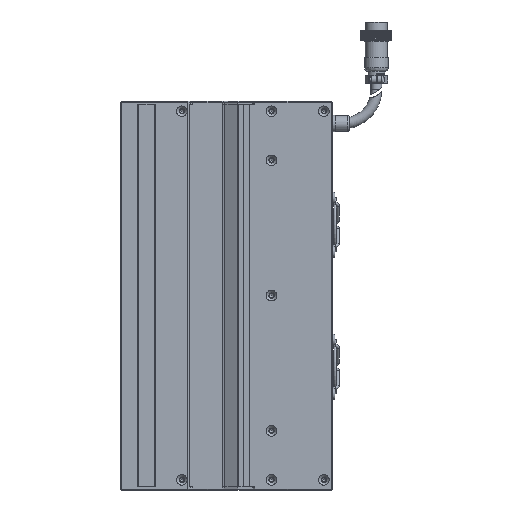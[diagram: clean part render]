
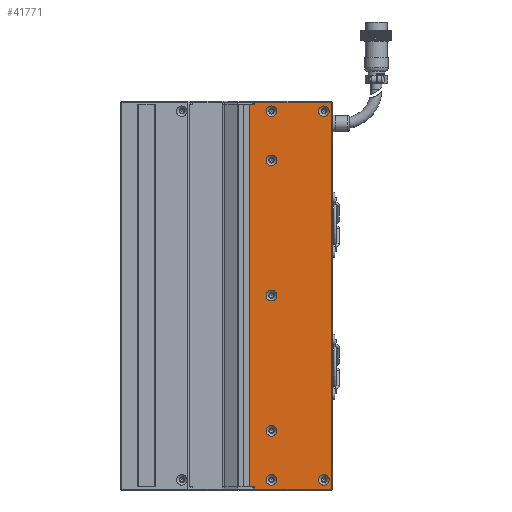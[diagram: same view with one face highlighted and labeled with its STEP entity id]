
A CAD part, left-side view. The second image highlights one B-rep face of the part: STEP entity #41771.
In plain terms, the highlighted planar face has unit normal (-1, 0, 0).
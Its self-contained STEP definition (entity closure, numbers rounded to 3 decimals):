
#1291 = DIRECTION ( 'NONE',  ( 0., 0., 1. ) ) ;
#2039 = EDGE_LOOP ( 'NONE', ( #43079 ) ) ;
#2148 = DIRECTION ( 'NONE',  ( -1., 0., 0. ) ) ;
#3216 = VERTEX_POINT ( 'NONE', #4691 ) ;
#4691 = CARTESIAN_POINT ( 'NONE',  ( -24.998, -72., -114.5 ) ) ;
#4860 = EDGE_LOOP ( 'NONE', ( #55312 ) ) ;
#4933 = ORIENTED_EDGE ( 'NONE', *, *, #31613, .F. ) ;
#5655 = FACE_BOUND ( 'NONE', #2039, .T. ) ;
#6039 = CIRCLE ( 'NONE', #95228, 3.15 ) ;
#7592 = EDGE_CURVE ( 'NONE', #49629, #49629, #106882, .T. ) ;
#8708 = VECTOR ( 'NONE', #30792, 1000. ) ;
#10331 = FACE_OUTER_BOUND ( 'NONE', #73410, .T. ) ;
#11016 = VERTEX_POINT ( 'NONE', #67903 ) ;
#11701 = CARTESIAN_POINT ( 'NONE',  ( -24.998, -72.5, 114.5 ) ) ;
#12600 = CARTESIAN_POINT ( 'NONE',  ( -24.998, -72.5, -114.5 ) ) ;
#15065 = CARTESIAN_POINT ( 'NONE',  ( -24.998, -26.5, -113. ) ) ;
#16270 = AXIS2_PLACEMENT_3D ( 'NONE', #30791, #41567, #61024 ) ;
#16841 = VERTEX_POINT ( 'NONE', #81076 ) ;
#18858 = DIRECTION ( 'NONE',  ( 0., 0., 1. ) ) ;
#18870 = CARTESIAN_POINT ( 'NONE',  ( -24.998, -67.5, 112.15 ) ) ;
#20741 = DIRECTION ( 'NONE',  ( 0., 0., 1. ) ) ;
#21163 = DIRECTION ( 'NONE',  ( -1., 0., 0. ) ) ;
#21377 = CARTESIAN_POINT ( 'NONE',  ( -24.998, -36.5, -105.85 ) ) ;
#21610 = EDGE_CURVE ( 'NONE', #60418, #60418, #6039, .T. ) ;
#22445 = DIRECTION ( 'NONE',  ( 0., 1., 0. ) ) ;
#23718 = DIRECTION ( 'NONE',  ( 0., 0., 1. ) ) ;
#24045 = DIRECTION ( 'NONE',  ( 0., 0., 1. ) ) ;
#24743 = CARTESIAN_POINT ( 'NONE',  ( -24.998, -67.5, -109. ) ) ;
#25203 = CIRCLE ( 'NONE', #69791, 3.15 ) ;
#26191 = CARTESIAN_POINT ( 'NONE',  ( -24.998, -36.5, 83.15 ) ) ;
#27210 = FACE_BOUND ( 'NONE', #31083, .T. ) ;
#27220 = CARTESIAN_POINT ( 'NONE',  ( -24.998, -72.5, 113. ) ) ;
#28632 = ORIENTED_EDGE ( 'NONE', *, *, #37907, .F. ) ;
#28941 = DIRECTION ( 'NONE',  ( 0., 0., -1. ) ) ;
#29779 = CARTESIAN_POINT ( 'NONE',  ( -24.998, -72.5, 113. ) ) ;
#29815 = EDGE_LOOP ( 'NONE', ( #114227 ) ) ;
#30791 = CARTESIAN_POINT ( 'NONE',  ( -24.998, -36.5, 109. ) ) ;
#30792 = DIRECTION ( 'NONE',  ( 0., 0., 1. ) ) ;
#30951 = CARTESIAN_POINT ( 'NONE',  ( -24.998, -67.5, 109. ) ) ;
#30979 = LINE ( 'NONE', #83002, #115825 ) ;
#31083 = EDGE_LOOP ( 'NONE', ( #77967 ) ) ;
#31149 = CARTESIAN_POINT ( 'NONE',  ( -24.998, -36.5, 0. ) ) ;
#31613 = EDGE_CURVE ( 'NONE', #3216, #124161, #34834, .T. ) ;
#31718 = FACE_BOUND ( 'NONE', #74124, .T. ) ;
#32273 = CARTESIAN_POINT ( 'NONE',  ( -24.998, -36.5, -80. ) ) ;
#32835 = CIRCLE ( 'NONE', #16270, 3.15 ) ;
#33141 = CARTESIAN_POINT ( 'NONE',  ( -24.998, -72., 113. ) ) ;
#33525 = CARTESIAN_POINT ( 'NONE',  ( -24.998, -67.5, -105.85 ) ) ;
#34483 = EDGE_CURVE ( 'NONE', #96446, #113842, #60590, .T. ) ;
#34834 = LINE ( 'NONE', #12600, #107262 ) ;
#37907 = EDGE_CURVE ( 'NONE', #113842, #71734, #117152, .T. ) ;
#38874 = CIRCLE ( 'NONE', #63157, 3.15 ) ;
#40917 = DIRECTION ( 'NONE',  ( 0., 1., 0. ) ) ;
#41567 = DIRECTION ( 'NONE',  ( -1., 0., 0. ) ) ;
#41771 = ADVANCED_FACE ( 'NONE', ( #79591, #5655, #99617, #27210, #105837, #107291, #31718, #10331 ), #99549, .F. ) ;
#42070 = ORIENTED_EDGE ( 'NONE', *, *, #124362, .T. ) ;
#42869 = ORIENTED_EDGE ( 'NONE', *, *, #59294, .T. ) ;
#43079 = ORIENTED_EDGE ( 'NONE', *, *, #109315, .F. ) ;
#43880 = VECTOR ( 'NONE', #40917, 1000. ) ;
#43992 = CARTESIAN_POINT ( 'NONE',  ( -24.998, -26.5, 113. ) ) ;
#45107 = CARTESIAN_POINT ( 'NONE',  ( -24.998, -23.25, -113. ) ) ;
#45358 = DIRECTION ( 'NONE',  ( -1., 0., 0. ) ) ;
#45603 = ORIENTED_EDGE ( 'NONE', *, *, #88656, .T. ) ;
#45807 = DIRECTION ( 'NONE',  ( -1., 0., 0. ) ) ;
#48164 = CARTESIAN_POINT ( 'NONE',  ( -24.998, -26.5, -114.5 ) ) ;
#49373 = CARTESIAN_POINT ( 'NONE',  ( -24.998, -36.5, 112.15 ) ) ;
#49629 = VERTEX_POINT ( 'NONE', #84366 ) ;
#50937 = VECTOR ( 'NONE', #104170, 1000. ) ;
#52026 = CARTESIAN_POINT ( 'NONE',  ( -24.998, -36.5, -109. ) ) ;
#54083 = VERTEX_POINT ( 'NONE', #18870 ) ;
#54165 = LINE ( 'NONE', #33141, #83447 ) ;
#55312 = ORIENTED_EDGE ( 'NONE', *, *, #21610, .F. ) ;
#55414 = VERTEX_POINT ( 'NONE', #74167 ) ;
#59294 = EDGE_CURVE ( 'NONE', #3216, #16841, #54165, .T. ) ;
#60418 = VERTEX_POINT ( 'NONE', #33525 ) ;
#60590 = LINE ( 'NONE', #45107, #72910 ) ;
#61024 = DIRECTION ( 'NONE',  ( 0., 0., 1. ) ) ;
#61086 = ORIENTED_EDGE ( 'NONE', *, *, #99086, .F. ) ;
#61982 = DIRECTION ( 'NONE',  ( -1., 0., 0. ) ) ;
#62049 = ORIENTED_EDGE ( 'NONE', *, *, #66026, .F. ) ;
#63157 = AXIS2_PLACEMENT_3D ( 'NONE', #32273, #21163, #20741 ) ;
#64807 = DIRECTION ( 'NONE',  ( 0., 0., 1. ) ) ;
#66026 = EDGE_CURVE ( 'NONE', #106474, #106474, #100136, .T. ) ;
#67903 = CARTESIAN_POINT ( 'NONE',  ( -24.998, -36.5, -76.85 ) ) ;
#68888 = ORIENTED_EDGE ( 'NONE', *, *, #34483, .F. ) ;
#69791 = AXIS2_PLACEMENT_3D ( 'NONE', #30951, #2148, #1291 ) ;
#70130 = CIRCLE ( 'NONE', #94285, 3.15 ) ;
#71734 = VERTEX_POINT ( 'NONE', #43992 ) ;
#72910 = VECTOR ( 'NONE', #18858, 1000. ) ;
#73235 = ORIENTED_EDGE ( 'NONE', *, *, #86141, .T. ) ;
#73410 = EDGE_LOOP ( 'NONE', ( #45603, #90027, #4933, #42869, #42070, #73235, #28632, #68888 ) ) ;
#73915 = DIRECTION ( 'NONE',  ( 0., 0., -1. ) ) ;
#74124 = EDGE_LOOP ( 'NONE', ( #62049 ) ) ;
#74167 = CARTESIAN_POINT ( 'NONE',  ( -24.998, -26.5, 114.5 ) ) ;
#74237 = VERTEX_POINT ( 'NONE', #49373 ) ;
#75555 = DIRECTION ( 'NONE',  ( 0., 0., 1. ) ) ;
#77967 = ORIENTED_EDGE ( 'NONE', *, *, #83134, .F. ) ;
#78651 = EDGE_LOOP ( 'NONE', ( #115245 ) ) ;
#79591 = FACE_BOUND ( 'NONE', #4860, .T. ) ;
#81076 = CARTESIAN_POINT ( 'NONE',  ( -24.998, -72., 114.5 ) ) ;
#81736 = EDGE_LOOP ( 'NONE', ( #61086 ) ) ;
#82038 = VERTEX_POINT ( 'NONE', #15065 ) ;
#83002 = CARTESIAN_POINT ( 'NONE',  ( -24.998, -26.5, 106. ) ) ;
#83134 = EDGE_CURVE ( 'NONE', #54083, #54083, #25203, .T. ) ;
#83447 = VECTOR ( 'NONE', #23718, 1000. ) ;
#83659 = EDGE_CURVE ( 'NONE', #74237, #74237, #32835, .T. ) ;
#84366 = CARTESIAN_POINT ( 'NONE',  ( -24.998, -36.5, 3.15 ) ) ;
#84766 = AXIS2_PLACEMENT_3D ( 'NONE', #123771, #45807, #75555 ) ;
#86141 = EDGE_CURVE ( 'NONE', #55414, #71734, #30979, .T. ) ;
#86279 = VECTOR ( 'NONE', #96081, 1000. ) ;
#87634 = CARTESIAN_POINT ( 'NONE',  ( -24.998, -23.25, -113. ) ) ;
#88151 = CARTESIAN_POINT ( 'NONE',  ( -24.998, -26.5, -106. ) ) ;
#88656 = EDGE_CURVE ( 'NONE', #96446, #82038, #115718, .T. ) ;
#89730 = DIRECTION ( 'NONE',  ( -1., 0., 0. ) ) ;
#90027 = ORIENTED_EDGE ( 'NONE', *, *, #120675, .F. ) ;
#93189 = LINE ( 'NONE', #11701, #43880 ) ;
#94285 = AXIS2_PLACEMENT_3D ( 'NONE', #52026, #61982, #24045 ) ;
#94633 = CARTESIAN_POINT ( 'NONE',  ( -24.998, -72.5, -113. ) ) ;
#94901 = AXIS2_PLACEMENT_3D ( 'NONE', #29779, #119381, #28941 ) ;
#95228 = AXIS2_PLACEMENT_3D ( 'NONE', #24743, #45358, #64807 ) ;
#96081 = DIRECTION ( 'NONE',  ( 0., -1., 0. ) ) ;
#96446 = VERTEX_POINT ( 'NONE', #87634 ) ;
#96891 = AXIS2_PLACEMENT_3D ( 'NONE', #31149, #89730, #100079 ) ;
#99086 = EDGE_CURVE ( 'NONE', #11016, #11016, #38874, .T. ) ;
#99549 = PLANE ( 'NONE',  #94901 ) ;
#99617 = FACE_BOUND ( 'NONE', #29815, .T. ) ;
#100079 = DIRECTION ( 'NONE',  ( 0., 0., 1. ) ) ;
#100136 = CIRCLE ( 'NONE', #84766, 3.15 ) ;
#101951 = VERTEX_POINT ( 'NONE', #21377 ) ;
#104170 = DIRECTION ( 'NONE',  ( 0., -1., 0. ) ) ;
#105837 = FACE_BOUND ( 'NONE', #81736, .T. ) ;
#106474 = VERTEX_POINT ( 'NONE', #26191 ) ;
#106882 = CIRCLE ( 'NONE', #96891, 3.15 ) ;
#107262 = VECTOR ( 'NONE', #22445, 1000. ) ;
#107291 = FACE_BOUND ( 'NONE', #78651, .T. ) ;
#109315 = EDGE_CURVE ( 'NONE', #101951, #101951, #70130, .T. ) ;
#111882 = LINE ( 'NONE', #88151, #8708 ) ;
#113842 = VERTEX_POINT ( 'NONE', #123081 ) ;
#114227 = ORIENTED_EDGE ( 'NONE', *, *, #83659, .F. ) ;
#115245 = ORIENTED_EDGE ( 'NONE', *, *, #7592, .F. ) ;
#115718 = LINE ( 'NONE', #94633, #50937 ) ;
#115825 = VECTOR ( 'NONE', #73915, 1000. ) ;
#117152 = LINE ( 'NONE', #27220, #86279 ) ;
#119381 = DIRECTION ( 'NONE',  ( 1., 0., 0. ) ) ;
#120675 = EDGE_CURVE ( 'NONE', #124161, #82038, #111882, .T. ) ;
#123081 = CARTESIAN_POINT ( 'NONE',  ( -24.998, -23.25, 113. ) ) ;
#123771 = CARTESIAN_POINT ( 'NONE',  ( -24.998, -36.5, 80. ) ) ;
#124161 = VERTEX_POINT ( 'NONE', #48164 ) ;
#124362 = EDGE_CURVE ( 'NONE', #16841, #55414, #93189, .T. ) ;
